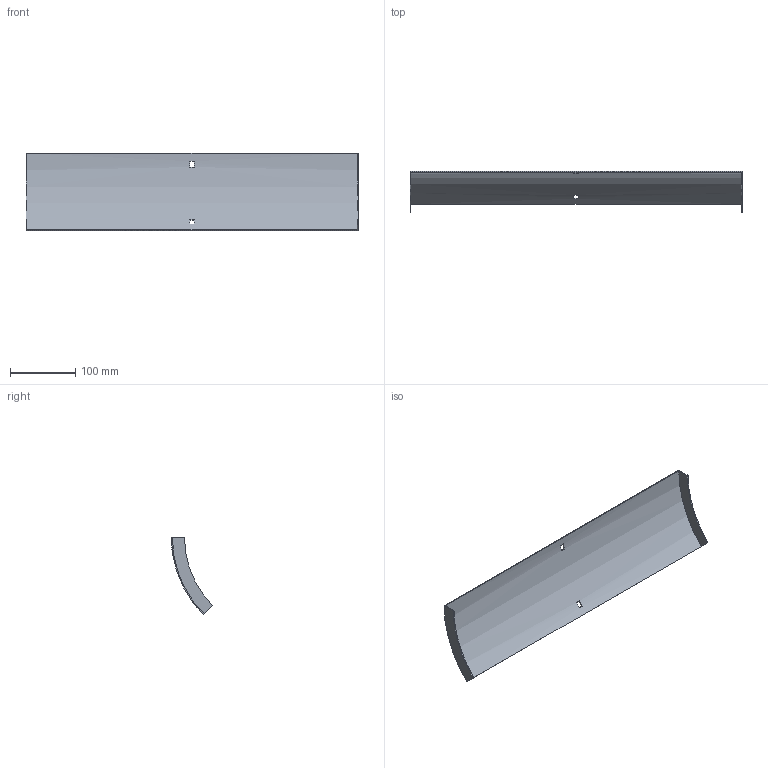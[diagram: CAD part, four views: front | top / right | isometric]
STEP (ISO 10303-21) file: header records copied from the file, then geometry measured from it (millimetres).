
FILE_DESCRIPTION (( 'STEP AP214' ), '1' );
FILE_NAME ('34N1H500.step', '2025-02-21T09:15:39', ( '' ), ( '' ), 'SwSTEP 2.0', 'SolidWorks 2023', '' );
FILE_SCHEMA (( 'AUTOMOTIVE_DESIGN' ));
Length unit declared in the file: millimetre
Products named in the file (1): 34N1H500
Bounding box: 507 x 63.06 x 118.09 mm (x, y, z)
Volume: 105934.8 mm3; surface area: 143320 mm2
Topology: 1 solids, 1 shells, 18 faces, 48 edges, 32 vertices
Faces by surface type: plane 14, cylinder 4
Entity records: 599 total; most frequent: DIRECTION 102, CARTESIAN_POINT 99, ORIENTED_EDGE 96, EDGE_CURVE 48, AXIS2_PLACEMENT_3D 35, LINE 32, VERTEX_POINT 32, VECTOR 32
